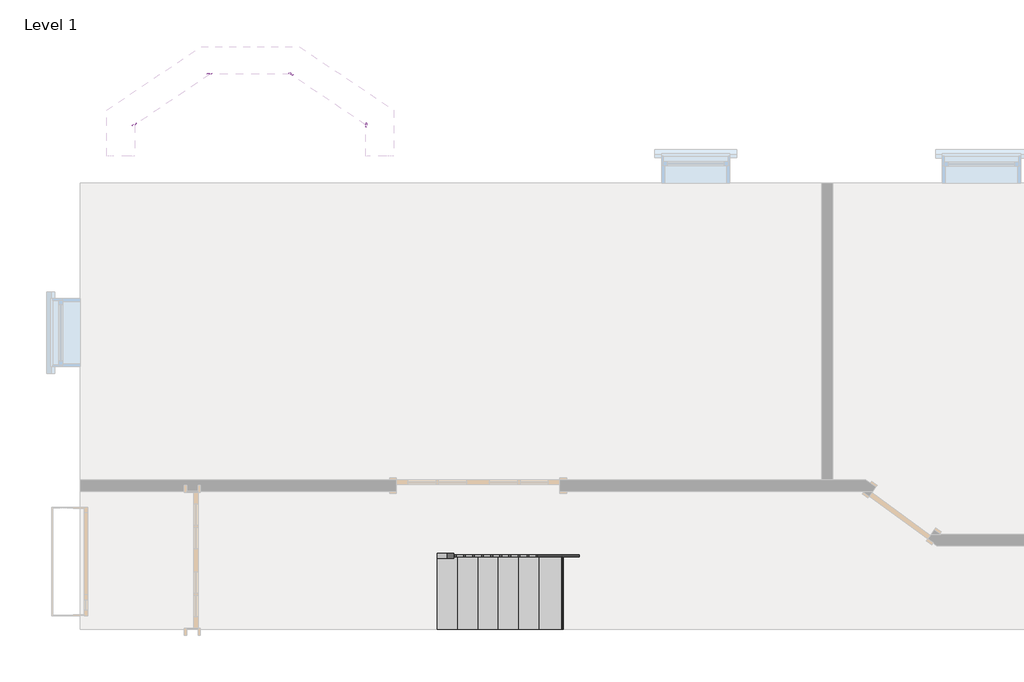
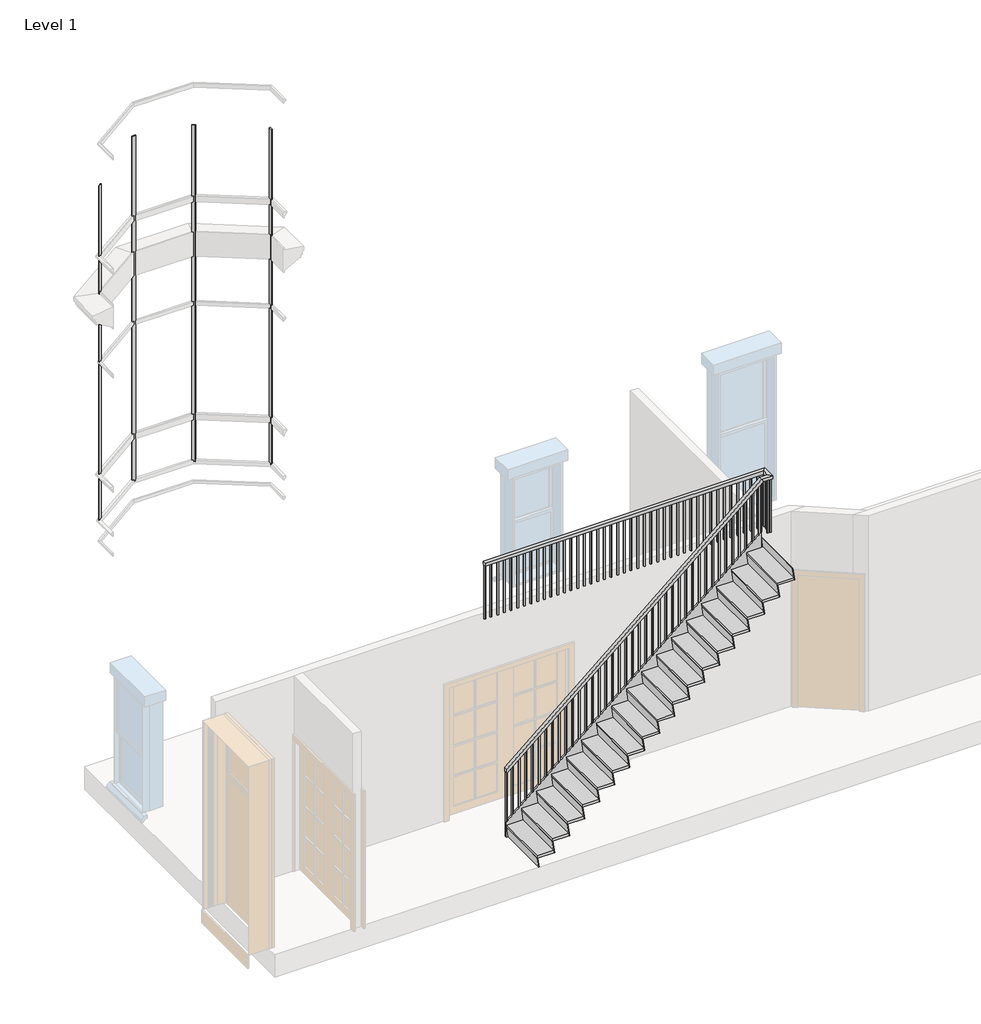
# One storey, part 2 of 2: 4 proxies, 1 member, 1 railing, 1 stair flight.
"""IFC4 building model written with IfcOpenShell, lengths in millimetres."""

from ifc_helpers import new_model, si_unit, frame, origin, place, context, project, spatial, polyline, outline, extrude, faceted_brep, transform, mapped, element, save
from components import stair_flight_76ddc24f

model = new_model("IFC4")

# Units and contexts
model_context = context("Model", 3, world=origin())
ifc_project = project(units=[si_unit("LENGTHUNIT", "METRE", prefix="MILLI")], contexts=[model_context])

# Site, building, storey
site = spatial("IfcSite", under=ifc_project)
building = spatial("IfcBuilding", under=site)
storey = spatial("IfcBuildingStorey", under=building, Name="Level 1", Elevation=0.0)

# Proxies
placement = place(None, origin())
element("IfcBuildingElementProxy", 1, Name="Bay Trim 2\"", ObjectType="Bay Trim 2\"", at=placement, inside=storey, context=model_context, shape_type="Brep", body=[
    faceted_brep([(-17626.4843053, 4420.7188759, 8764.0583333), (-17668.599414, 4449.1258754, 8764.0583333), (-17675.7011638, 4438.5970982, 8764.0583333), (-17633.5860552, 4410.1900987, 8764.0583333), (-17626.4843053, 4420.7188759, 3346.5435033), (-17633.5860552, 4410.1900987, 3346.5435033), (-17654.6436095, 4424.3935985, 3346.5435033), (-17675.7011638, 4438.5970982, 3346.5435033), (-17668.599414, 4449.1258754, 3346.5435033), (-17626.4843053, 4420.7188759, 7626.35), (-17626.4843053, 4420.7188759, 7566.025), (-17626.4843053, 4420.7188759, 7534.275), (-17626.4843053, 4420.7188759, 7048.5), (-17626.4843053, 4420.7188759, 7016.75), (-17626.4843053, 4420.7188759, 6681.7875), (-17626.4843053, 4420.7188759, 6656.3875), (-17626.4843053, 4420.7188759, 5925.0791667), (-17626.4843053, 4420.7188759, 5886.45), (-17626.4843053, 4420.7188759, 4114.8), (-17626.4843053, 4420.7188759, 4054.475), (-17626.4843053, 4420.7188759, 4022.725), (-17626.4843053, 4420.7188759, 3373.0018366), (-17668.599414, 4449.1258754, 3370.9964572), (-17668.599414, 4449.1258754, 4054.475), (-17668.599414, 4449.1258754, 4112.7946205), (-17668.599414, 4449.1258754, 5902.325), (-17668.599414, 4449.1258754, 5923.0737872), (-17668.599414, 4449.1258754, 6688.5883522), (-17668.599414, 4449.1258754, 7014.7446205), (-17668.599414, 4449.1258754, 7566.025), (-17668.599414, 4449.1258754, 7624.3446205), (-17675.7011638, 4438.5970982, 3372.7512534), (-17675.7011638, 4438.5970982, 4054.475), (-17675.7011638, 4438.5970982, 4114.5494167), (-17675.7011638, 4438.5970982, 5886.45), (-17675.7011638, 4438.5970982, 5924.8285834), (-17675.7011638, 4438.5970982, 6682.6373042), (-17675.7011638, 4438.5970982, 7016.4994167), (-17675.7011638, 4438.5970982, 7566.025), (-17675.7011638, 4438.5970982, 7626.0994167), (-17633.5860552, 4410.1900987, 3375.1185033), (-17633.5860552, 4410.1900987, 4022.725), (-17633.5860552, 4410.1900987, 4114.8), (-17633.5860552, 4410.1900987, 5867.4), (-17633.5860552, 4410.1900987, 5926.1375), (-17633.5860552, 4410.1900987, 6656.3875), (-17633.5860552, 4410.1900987, 7048.5), (-17633.5860552, 4410.1900987, 7534.275), (-17633.5860552, 4410.1900987, 7626.35)], [[[0, 1, 2, 3]], [[4, 5, 6, 7, 8]], [[1, 0, 9, 10, 11, 12, 13, 14, 15, 16, 17, 18, 19, 20, 21, 4, 8, 22, 23, 24, 25, 26, 27, 28, 29, 30]], [[2, 1, 30, 29, 28, 27, 26, 25, 24, 23, 22, 8, 7, 31, 32, 33, 34, 35, 36, 37, 38, 39]], [[3, 2, 39, 38, 37, 36, 35, 34, 33, 32, 31, 7, 6, 5, 40, 41, 42, 43, 44, 45, 46, 47, 48]], [[0, 3, 48, 47, 46, 45, 44, 43, 42, 41, 40, 5, 4, 21, 20, 19, 18, 17, 16, 15, 14, 13, 12, 11, 10, 9]]]),
])
element("IfcBuildingElementProxy", 2, Name="Bay Trim 2\"", ObjectType="Bay Trim 2\"", at=placement, inside=storey, context=model_context, shape_type="Brep", body=[
    faceted_brep([(-18537.4172586, 4437.0935985, 8911.1666667), (-18588.2172586, 4437.0935985, 8911.1666667), (-18588.2172586, 4424.3935985, 8911.1666667), (-18537.4172586, 4424.3935985, 8911.1666667), (-18537.4172586, 4437.0935985, 3346.5435033), (-18537.4172586, 4424.3935985, 3346.5435033), (-18562.8172586, 4424.3935985, 3346.5435033), (-18588.2172586, 4424.3935985, 3346.5435033), (-18588.2172586, 4437.0935985, 3346.5435033), (-18537.4172586, 4437.0935985, 7626.35), (-18537.4172586, 4437.0935985, 7566.025), (-18537.4172586, 4437.0935985, 7534.275), (-18537.4172586, 4437.0935985, 7048.5), (-18537.4172586, 4437.0935985, 7016.75), (-18537.4172586, 4437.0935985, 6681.7875), (-18537.4172586, 4437.0935985, 6656.3875), (-18537.4172586, 4437.0935985, 5925.0791667), (-18537.4172586, 4437.0935985, 5886.45), (-18537.4172586, 4437.0935985, 4114.8), (-18537.4172586, 4437.0935985, 4054.475), (-18537.4172586, 4437.0935985, 4022.725), (-18537.4172586, 4437.0935985, 3373.0018366), (-18588.2172586, 4437.0935985, 3370.9964572), (-18588.2172586, 4437.0935985, 4054.475), (-18588.2172586, 4437.0935985, 4112.7946205), (-18588.2172586, 4437.0935985, 5902.325), (-18588.2172586, 4437.0935985, 5923.0737872), (-18588.2172586, 4437.0935985, 6688.5883522), (-18588.2172586, 4437.0935985, 7014.7446205), (-18588.2172586, 4437.0935985, 7566.025), (-18588.2172586, 4437.0935985, 7624.3446205), (-18588.2172586, 4424.3935985, 3372.7512534), (-18588.2172586, 4424.3935985, 4054.475), (-18588.2172586, 4424.3935985, 4114.5494167), (-18588.2172586, 4424.3935985, 5886.45), (-18588.2172586, 4424.3935985, 5924.8285834), (-18588.2172586, 4424.3935985, 6682.6373042), (-18588.2172586, 4424.3935985, 7016.4994167), (-18588.2172586, 4424.3935985, 7566.025), (-18588.2172586, 4424.3935985, 7626.0994167), (-18537.4172586, 4424.3935985, 3375.1185033), (-18537.4172586, 4424.3935985, 4022.725), (-18537.4172586, 4424.3935985, 4114.8), (-18537.4172586, 4424.3935985, 5867.4), (-18537.4172586, 4424.3935985, 5926.1375), (-18537.4172586, 4424.3935985, 6656.3875), (-18537.4172586, 4424.3935985, 7048.5), (-18537.4172586, 4424.3935985, 7534.275), (-18537.4172586, 4424.3935985, 7626.35)], [[[0, 1, 2, 3]], [[4, 5, 6, 7, 8]], [[1, 0, 9, 10, 11, 12, 13, 14, 15, 16, 17, 18, 19, 20, 21, 4, 8, 22, 23, 24, 25, 26, 27, 28, 29, 30]], [[2, 1, 30, 29, 28, 27, 26, 25, 24, 23, 22, 8, 7, 31, 32, 33, 34, 35, 36, 37, 38, 39]], [[3, 2, 39, 38, 37, 36, 35, 34, 33, 32, 31, 7, 6, 5, 40, 41, 42, 43, 44, 45, 46, 47, 48]], [[0, 3, 48, 47, 46, 45, 44, 43, 42, 41, 40, 5, 4, 21, 20, 19, 18, 17, 16, 15, 14, 13, 12, 11, 10, 9]]]),
])
element("IfcBuildingElementProxy", 3, Name="Bay Trim 2\"", ObjectType="Bay Trim 2\"", at=placement, inside=storey, context=model_context, shape_type="Brep", body=[
    faceted_brep([(-19390.1746296, 3881.6529732, 8764.0583333), (-19432.2897383, 3853.2459737, 8764.0583333), (-19425.1879884, 3842.7171966, 8764.0583333), (-19383.0728797, 3871.1241961, 8764.0583333), (-19390.1746296, 3881.6529732, 3375.1185033), (-19383.0728797, 3871.1241961, 3375.1185033), (-19425.1879884, 3842.7171966, 3375.1185033), (-19432.2897383, 3853.2459737, 3375.1185033), (-19390.1746296, 3881.6529732, 7626.35), (-19390.1746296, 3881.6529732, 7566.025), (-19390.1746296, 3881.6529732, 7534.275), (-19390.1746296, 3881.6529732, 7048.5), (-19390.1746296, 3881.6529732, 7016.75), (-19390.1746296, 3881.6529732, 6681.7875), (-19390.1746296, 3881.6529732, 6656.3875), (-19390.1746296, 3881.6529732, 5925.0791667), (-19390.1746296, 3881.6529732, 5886.45), (-19390.1746296, 3881.6529732, 4114.8), (-19390.1746296, 3881.6529732, 4054.475), (-19390.1746296, 3881.6529732, 4022.725), (-19432.2897383, 3853.2459737, 4070.35), (-19432.2897383, 3853.2459737, 4112.2234493), (-19432.2897383, 3853.2459737, 5902.325), (-19432.2897383, 3853.2459737, 5922.502616), (-19432.2897383, 3853.2459737, 6690.5253676), (-19432.2897383, 3853.2459737, 7014.1734493), (-19432.2897383, 3853.2459737, 7581.9), (-19432.2897383, 3853.2459737, 7623.7734493), (-19425.1879884, 3842.7171966, 4054.475), (-19425.1879884, 3842.7171966, 4113.4070743), (-19425.1879884, 3842.7171966, 5902.325), (-19425.1879884, 3842.7171966, 5923.6862409), (-19425.1879884, 3842.7171966, 6686.5113351), (-19425.1879884, 3842.7171966, 7015.3570743), (-19425.1879884, 3842.7171966, 7566.025), (-19425.1879884, 3842.7171966, 7624.9570743), (-19383.0728797, 3871.1241961, 4022.725), (-19383.0728797, 3871.1241961, 4114.8), (-19383.0728797, 3871.1241961, 5867.4), (-19383.0728797, 3871.1241961, 5926.1375), (-19383.0728797, 3871.1241961, 6656.3875), (-19383.0728797, 3871.1241961, 7048.5), (-19383.0728797, 3871.1241961, 7534.275), (-19383.0728797, 3871.1241961, 7626.35)], [[[0, 1, 2, 3]], [[4, 5, 6, 7]], [[1, 0, 8, 9, 10, 11, 12, 13, 14, 15, 16, 17, 18, 19, 4, 7, 20, 21, 22, 23, 24, 25, 26, 27]], [[2, 1, 27, 26, 25, 24, 23, 22, 21, 20, 7, 6, 28, 29, 30, 31, 32, 33, 34, 35]], [[3, 2, 35, 34, 33, 32, 31, 30, 29, 28, 6, 5, 36, 37, 38, 39, 40, 41, 42, 43]], [[0, 3, 43, 42, 41, 40, 39, 38, 37, 36, 5, 4, 19, 18, 17, 16, 15, 14, 13, 12, 11, 10, 9, 8]]]),
])
element("IfcBuildingElementProxy", 4, Name="Bay Trim 2\"", ObjectType="Bay Trim 2\"", at=placement, inside=storey, context=model_context, shape_type="Brep", body=[
    faceted_brep([(-16800.630434, 3831.5206963, 8763.0), (-16800.630434, 3882.3206963, 8763.0), (-16813.330434, 3882.3206963, 8763.0), (-16813.330434, 3831.5206963, 8763.0), (-16800.630434, 3831.5206963, 3346.5435033), (-16813.330434, 3831.5206963, 3346.5435033), (-16813.330434, 3856.9206963, 3346.5435033), (-16813.330434, 3882.3206963, 3346.5435033), (-16805.5648747, 3882.3206963, 3346.5435033), (-16800.630434, 3882.3206963, 3346.5435033), (-16800.630434, 3878.992374, 3346.5435033), (-16800.630434, 3831.5206963, 7626.35), (-16800.630434, 3831.5206963, 7566.025), (-16800.630434, 3831.5206963, 7534.275), (-16800.630434, 3831.5206963, 7048.5), (-16800.630434, 3831.5206963, 7016.75), (-16800.630434, 3831.5206963, 6681.7875), (-16800.630434, 3831.5206963, 6656.3875), (-16800.630434, 3831.5206963, 5925.0791667), (-16800.630434, 3831.5206963, 5886.45), (-16800.630434, 3831.5206963, 4114.8), (-16800.630434, 3831.5206963, 4054.475), (-16800.630434, 3831.5206963, 4022.725), (-16800.630434, 3831.5206963, 3373.0018366), (-16800.630434, 3882.3206963, 3370.4252859), (-16800.630434, 3882.3206963, 4070.35), (-16800.630434, 3882.3206963, 4112.2234493), (-16800.630434, 3882.3206963, 5902.325), (-16800.630434, 3882.3206963, 5922.502616), (-16800.630434, 3882.3206963, 6690.5253676), (-16800.630434, 3882.3206963, 7014.1734493), (-16800.630434, 3882.3206963, 7581.9), (-16800.630434, 3882.3206963, 7623.7734493), (-16813.330434, 3882.3206963, 3371.6089109), (-16813.330434, 3882.3206963, 4054.475), (-16813.330434, 3882.3206963, 4113.4070743), (-16813.330434, 3882.3206963, 5902.325), (-16813.330434, 3882.3206963, 5923.6862409), (-16813.330434, 3882.3206963, 6686.5113351), (-16813.330434, 3882.3206963, 7015.3570743), (-16813.330434, 3882.3206963, 7566.025), (-16813.330434, 3882.3206963, 7624.9570743), (-16813.330434, 3831.5206963, 3375.1185033), (-16813.330434, 3831.5206963, 4022.725), (-16813.330434, 3831.5206963, 4114.8), (-16813.330434, 3831.5206963, 5867.4), (-16813.330434, 3831.5206963, 5926.1375), (-16813.330434, 3831.5206963, 6656.3875), (-16813.330434, 3831.5206963, 7048.5), (-16813.330434, 3831.5206963, 7534.275), (-16813.330434, 3831.5206963, 7626.35)], [[[0, 1, 2, 3]], [[4, 5, 6, 7, 8, 9, 10]], [[1, 0, 11, 12, 13, 14, 15, 16, 17, 18, 19, 20, 21, 22, 23, 4, 10, 9, 24, 25, 26, 27, 28, 29, 30, 31, 32]], [[2, 1, 32, 31, 30, 29, 28, 27, 26, 25, 24, 9, 8, 7, 33, 34, 35, 36, 37, 38, 39, 40, 41]], [[3, 2, 41, 40, 39, 38, 37, 36, 35, 34, 33, 7, 6, 5, 42, 43, 44, 45, 46, 47, 48, 49, 50]], [[0, 3, 50, 49, 48, 47, 46, 45, 44, 43, 42, 5, 4, 23, 22, 21, 20, 19, 18, 17, 16, 15, 14, 13, 12, 11]]]),
])

# Member
element("IfcMember", 5, ObjectType="Stringer - 1\" Width", at=placement, inside=storey, context=model_context, shape_type="SweptSolid", body=[
    extrude(outline(polyline([(244.0282445, -16013.2535292), (0.0, -16013.2535292), (0.0, -15829.6894453), (3154.0972619, -12127.0535292), (3554.4949112, -12127.0535292), (244.0282445, -16013.2535292)])), frame((0.0, -985.8064015, 0.0), z_axis=(0.0, 1.0, 0.0), x_axis=(0.0, 0.0, 1.0)), (0.0, 0.0, 1.0), 25.4),
])

# Railing
element("IfcRailing", 6, ObjectType="Handrail - Rectangular", at=placement, inside=storey, context=model_context, shape_type="SolidModel", body=[
    faceted_brep([(-16013.2535292, -947.7064015, 1109.1333333), (-16013.2535292, -947.7064015, 1042.4003918), (-16013.2535292, -998.5064015, 1042.4003918), (-16013.2535292, -998.5064015, 1109.1333333), (-12127.0535292, -947.7064015, 4419.6), (-12108.3496413, -947.7064015, 4368.8), (-12108.3496413, -998.5064015, 4368.8), (-12127.0535292, -998.5064015, 4419.6), (-12012.7535292, -947.7064015, 4419.6), (-12012.7535292, -947.7064015, 4368.8), (-11961.9535292, -998.5064015, 4368.8), (-11961.9535292, -998.5064015, 4419.6), (-12012.7535292, -846.1064015, 4419.6), (-12012.7535292, -846.1064015, 4368.8), (-11961.9535292, -795.3064015, 4368.8), (-11961.9535292, -795.3064015, 4419.6), (-16254.5535292, -846.1064015, 4419.6), (-16254.5535292, -795.3064015, 4419.6), (-16254.5535292, -795.3064015, 4368.8), (-16254.5535292, -846.1064015, 4368.8)], [[[0, 1, 2, 3]], [[1, 0, 4, 5]], [[2, 1, 5, 6]], [[3, 2, 6, 7]], [[0, 3, 7, 4]], [[5, 4, 8, 9]], [[6, 5, 9, 10]], [[7, 6, 10, 11]], [[4, 7, 11, 8]], [[9, 8, 12, 13]], [[10, 9, 13, 14]], [[11, 10, 14, 15]], [[8, 11, 15, 12]], [[16, 17, 18, 19]], [[13, 12, 16, 19]], [[14, 13, 19, 18]], [[15, 14, 18, 17]], [[12, 15, 17, 16]]]),
    extrude(outline(polyline([(-16143.4285292, -830.2314015), (-16162.4785292, -830.2314015), (-16162.4785292, -811.1814015), (-16143.4285292, -811.1814015), (-16143.4285292, -830.2314015)])), frame((0.0, 0.0, 3505.2), z_axis=(0.0, 0.0, 1.0), x_axis=(1.0, 0.0, 0.0)), (0.0, 0.0, 1.0), 863.6),
    extrude(outline(polyline([(-16041.8285292, -830.2314015), (-16060.8785292, -830.2314015), (-16060.8785292, -811.1814015), (-16041.8285292, -811.1814015), (-16041.8285292, -830.2314015)])), frame((0.0, 0.0, 3505.2), z_axis=(0.0, 0.0, 1.0), x_axis=(1.0, 0.0, 0.0)), (0.0, 0.0, 1.0), 863.6),
    extrude(outline(polyline([(-15940.2285292, -830.2314015), (-15959.2785292, -830.2314015), (-15959.2785292, -811.1814015), (-15940.2285292, -811.1814015), (-15940.2285292, -830.2314015)])), frame((0.0, 0.0, 3505.2), z_axis=(0.0, 0.0, 1.0), x_axis=(1.0, 0.0, 0.0)), (0.0, 0.0, 1.0), 863.6),
    extrude(outline(polyline([(-15838.6285292, -830.2314015), (-15857.6785292, -830.2314015), (-15857.6785292, -811.1814015), (-15838.6285292, -811.1814015), (-15838.6285292, -830.2314015)])), frame((0.0, 0.0, 3505.2), z_axis=(0.0, 0.0, 1.0), x_axis=(1.0, 0.0, 0.0)), (0.0, 0.0, 1.0), 863.6),
    extrude(outline(polyline([(-15737.0285292, -830.2314015), (-15756.0785292, -830.2314015), (-15756.0785292, -811.1814015), (-15737.0285292, -811.1814015), (-15737.0285292, -830.2314015)])), frame((0.0, 0.0, 3505.2), z_axis=(0.0, 0.0, 1.0), x_axis=(1.0, 0.0, 0.0)), (0.0, 0.0, 1.0), 863.6),
    extrude(outline(polyline([(-15635.4285292, -830.2314015), (-15654.4785292, -830.2314015), (-15654.4785292, -811.1814015), (-15635.4285292, -811.1814015), (-15635.4285292, -830.2314015)])), frame((0.0, 0.0, 3505.2), z_axis=(0.0, 0.0, 1.0), x_axis=(1.0, 0.0, 0.0)), (0.0, 0.0, 1.0), 863.6),
    extrude(outline(polyline([(-15533.8285292, -830.2314015), (-15552.8785292, -830.2314015), (-15552.8785292, -811.1814015), (-15533.8285292, -811.1814015), (-15533.8285292, -830.2314015)])), frame((0.0, 0.0, 3505.2), z_axis=(0.0, 0.0, 1.0), x_axis=(1.0, 0.0, 0.0)), (0.0, 0.0, 1.0), 863.6),
    extrude(outline(polyline([(-15432.2285292, -830.2314015), (-15451.2785292, -830.2314015), (-15451.2785292, -811.1814015), (-15432.2285292, -811.1814015), (-15432.2285292, -830.2314015)])), frame((0.0, 0.0, 3505.2), z_axis=(0.0, 0.0, 1.0), x_axis=(1.0, 0.0, 0.0)), (0.0, 0.0, 1.0), 863.6),
    extrude(outline(polyline([(-15330.6285292, -830.2314015), (-15349.6785292, -830.2314015), (-15349.6785292, -811.1814015), (-15330.6285292, -811.1814015), (-15330.6285292, -830.2314015)])), frame((0.0, 0.0, 3505.2), z_axis=(0.0, 0.0, 1.0), x_axis=(1.0, 0.0, 0.0)), (0.0, 0.0, 1.0), 863.6),
    extrude(outline(polyline([(-15229.0285292, -830.2314015), (-15248.0785292, -830.2314015), (-15248.0785292, -811.1814015), (-15229.0285292, -811.1814015), (-15229.0285292, -830.2314015)])), frame((0.0, 0.0, 3505.2), z_axis=(0.0, 0.0, 1.0), x_axis=(1.0, 0.0, 0.0)), (0.0, 0.0, 1.0), 863.6),
    extrude(outline(polyline([(-15127.4285292, -830.2314015), (-15146.4785292, -830.2314015), (-15146.4785292, -811.1814015), (-15127.4285292, -811.1814015), (-15127.4285292, -830.2314015)])), frame((0.0, 0.0, 3505.2), z_axis=(0.0, 0.0, 1.0), x_axis=(1.0, 0.0, 0.0)), (0.0, 0.0, 1.0), 863.6),
    extrude(outline(polyline([(-15025.8285292, -830.2314015), (-15044.8785292, -830.2314015), (-15044.8785292, -811.1814015), (-15025.8285292, -811.1814015), (-15025.8285292, -830.2314015)])), frame((0.0, 0.0, 3505.2), z_axis=(0.0, 0.0, 1.0), x_axis=(1.0, 0.0, 0.0)), (0.0, 0.0, 1.0), 863.6),
    extrude(outline(polyline([(-14924.2285292, -830.2314015), (-14943.2785292, -830.2314015), (-14943.2785292, -811.1814015), (-14924.2285292, -811.1814015), (-14924.2285292, -830.2314015)])), frame((0.0, 0.0, 3505.2), z_axis=(0.0, 0.0, 1.0), x_axis=(1.0, 0.0, 0.0)), (0.0, 0.0, 1.0), 863.6),
    extrude(outline(polyline([(-14822.6285292, -830.2314015), (-14841.6785292, -830.2314015), (-14841.6785292, -811.1814015), (-14822.6285292, -811.1814015), (-14822.6285292, -830.2314015)])), frame((0.0, 0.0, 3505.2), z_axis=(0.0, 0.0, 1.0), x_axis=(1.0, 0.0, 0.0)), (0.0, 0.0, 1.0), 863.6),
    extrude(outline(polyline([(-14721.0285292, -830.2314015), (-14740.0785292, -830.2314015), (-14740.0785292, -811.1814015), (-14721.0285292, -811.1814015), (-14721.0285292, -830.2314015)])), frame((0.0, 0.0, 3505.2), z_axis=(0.0, 0.0, 1.0), x_axis=(1.0, 0.0, 0.0)), (0.0, 0.0, 1.0), 863.6),
    extrude(outline(polyline([(-14619.4285292, -830.2314015), (-14638.4785292, -830.2314015), (-14638.4785292, -811.1814015), (-14619.4285292, -811.1814015), (-14619.4285292, -830.2314015)])), frame((0.0, 0.0, 3505.2), z_axis=(0.0, 0.0, 1.0), x_axis=(1.0, 0.0, 0.0)), (0.0, 0.0, 1.0), 863.6),
    extrude(outline(polyline([(-14517.8285292, -830.2314015), (-14536.8785292, -830.2314015), (-14536.8785292, -811.1814015), (-14517.8285292, -811.1814015), (-14517.8285292, -830.2314015)])), frame((0.0, 0.0, 3505.2), z_axis=(0.0, 0.0, 1.0), x_axis=(1.0, 0.0, 0.0)), (0.0, 0.0, 1.0), 863.6),
    extrude(outline(polyline([(-14416.2285292, -830.2314015), (-14435.2785292, -830.2314015), (-14435.2785292, -811.1814015), (-14416.2285292, -811.1814015), (-14416.2285292, -830.2314015)])), frame((0.0, 0.0, 3505.2), z_axis=(0.0, 0.0, 1.0), x_axis=(1.0, 0.0, 0.0)), (0.0, 0.0, 1.0), 863.6),
    extrude(outline(polyline([(-14314.6285292, -830.2314015), (-14333.6785292, -830.2314015), (-14333.6785292, -811.1814015), (-14314.6285292, -811.1814015), (-14314.6285292, -830.2314015)])), frame((0.0, 0.0, 3505.2), z_axis=(0.0, 0.0, 1.0), x_axis=(1.0, 0.0, 0.0)), (0.0, 0.0, 1.0), 863.6),
    extrude(outline(polyline([(-14213.0285292, -830.2314015), (-14232.0785292, -830.2314015), (-14232.0785292, -811.1814015), (-14213.0285292, -811.1814015), (-14213.0285292, -830.2314015)])), frame((0.0, 0.0, 3505.2), z_axis=(0.0, 0.0, 1.0), x_axis=(1.0, 0.0, 0.0)), (0.0, 0.0, 1.0), 863.6),
    extrude(outline(polyline([(-14111.4285292, -830.2314015), (-14130.4785292, -830.2314015), (-14130.4785292, -811.1814015), (-14111.4285292, -811.1814015), (-14111.4285292, -830.2314015)])), frame((0.0, 0.0, 3505.2), z_axis=(0.0, 0.0, 1.0), x_axis=(1.0, 0.0, 0.0)), (0.0, 0.0, 1.0), 863.6),
    extrude(outline(polyline([(-14009.8285292, -830.2314015), (-14028.8785292, -830.2314015), (-14028.8785292, -811.1814015), (-14009.8285292, -811.1814015), (-14009.8285292, -830.2314015)])), frame((0.0, 0.0, 3505.2), z_axis=(0.0, 0.0, 1.0), x_axis=(1.0, 0.0, 0.0)), (0.0, 0.0, 1.0), 863.6),
    extrude(outline(polyline([(-13908.2285292, -830.2314015), (-13927.2785292, -830.2314015), (-13927.2785292, -811.1814015), (-13908.2285292, -811.1814015), (-13908.2285292, -830.2314015)])), frame((0.0, 0.0, 3505.2), z_axis=(0.0, 0.0, 1.0), x_axis=(1.0, 0.0, 0.0)), (0.0, 0.0, 1.0), 863.6),
    extrude(outline(polyline([(-13806.6285292, -830.2314015), (-13825.6785292, -830.2314015), (-13825.6785292, -811.1814015), (-13806.6285292, -811.1814015), (-13806.6285292, -830.2314015)])), frame((0.0, 0.0, 3505.2), z_axis=(0.0, 0.0, 1.0), x_axis=(1.0, 0.0, 0.0)), (0.0, 0.0, 1.0), 863.6),
    extrude(outline(polyline([(-13705.0285292, -830.2314015), (-13724.0785292, -830.2314015), (-13724.0785292, -811.1814015), (-13705.0285292, -811.1814015), (-13705.0285292, -830.2314015)])), frame((0.0, 0.0, 3505.2), z_axis=(0.0, 0.0, 1.0), x_axis=(1.0, 0.0, 0.0)), (0.0, 0.0, 1.0), 863.6),
    extrude(outline(polyline([(-13603.4285292, -830.2314015), (-13622.4785292, -830.2314015), (-13622.4785292, -811.1814015), (-13603.4285292, -811.1814015), (-13603.4285292, -830.2314015)])), frame((0.0, 0.0, 3505.2), z_axis=(0.0, 0.0, 1.0), x_axis=(1.0, 0.0, 0.0)), (0.0, 0.0, 1.0), 863.6),
    extrude(outline(polyline([(-13501.8285292, -830.2314015), (-13520.8785292, -830.2314015), (-13520.8785292, -811.1814015), (-13501.8285292, -811.1814015), (-13501.8285292, -830.2314015)])), frame((0.0, 0.0, 3505.2), z_axis=(0.0, 0.0, 1.0), x_axis=(1.0, 0.0, 0.0)), (0.0, 0.0, 1.0), 863.6),
    extrude(outline(polyline([(-13400.2285292, -830.2314015), (-13419.2785292, -830.2314015), (-13419.2785292, -811.1814015), (-13400.2285292, -811.1814015), (-13400.2285292, -830.2314015)])), frame((0.0, 0.0, 3505.2), z_axis=(0.0, 0.0, 1.0), x_axis=(1.0, 0.0, 0.0)), (0.0, 0.0, 1.0), 863.6),
    extrude(outline(polyline([(-13298.6285292, -830.2314015), (-13317.6785292, -830.2314015), (-13317.6785292, -811.1814015), (-13298.6285292, -811.1814015), (-13298.6285292, -830.2314015)])), frame((0.0, 0.0, 3505.2), z_axis=(0.0, 0.0, 1.0), x_axis=(1.0, 0.0, 0.0)), (0.0, 0.0, 1.0), 863.6),
    extrude(outline(polyline([(-13197.0285292, -830.2314015), (-13216.0785292, -830.2314015), (-13216.0785292, -811.1814015), (-13197.0285292, -811.1814015), (-13197.0285292, -830.2314015)])), frame((0.0, 0.0, 3505.2), z_axis=(0.0, 0.0, 1.0), x_axis=(1.0, 0.0, 0.0)), (0.0, 0.0, 1.0), 863.6),
    extrude(outline(polyline([(-13095.4285292, -830.2314015), (-13114.4785292, -830.2314015), (-13114.4785292, -811.1814015), (-13095.4285292, -811.1814015), (-13095.4285292, -830.2314015)])), frame((0.0, 0.0, 3505.2), z_axis=(0.0, 0.0, 1.0), x_axis=(1.0, 0.0, 0.0)), (0.0, 0.0, 1.0), 863.6),
    extrude(outline(polyline([(-12993.8285292, -830.2314015), (-13012.8785292, -830.2314015), (-13012.8785292, -811.1814015), (-12993.8285292, -811.1814015), (-12993.8285292, -830.2314015)])), frame((0.0, 0.0, 3505.2), z_axis=(0.0, 0.0, 1.0), x_axis=(1.0, 0.0, 0.0)), (0.0, 0.0, 1.0), 863.6),
    extrude(outline(polyline([(-12892.2285292, -830.2314015), (-12911.2785292, -830.2314015), (-12911.2785292, -811.1814015), (-12892.2285292, -811.1814015), (-12892.2285292, -830.2314015)])), frame((0.0, 0.0, 3505.2), z_axis=(0.0, 0.0, 1.0), x_axis=(1.0, 0.0, 0.0)), (0.0, 0.0, 1.0), 863.6),
    extrude(outline(polyline([(-12790.6285292, -830.2314015), (-12809.6785292, -830.2314015), (-12809.6785292, -811.1814015), (-12790.6285292, -811.1814015), (-12790.6285292, -830.2314015)])), frame((0.0, 0.0, 3505.2), z_axis=(0.0, 0.0, 1.0), x_axis=(1.0, 0.0, 0.0)), (0.0, 0.0, 1.0), 863.6),
    extrude(outline(polyline([(-12689.0285292, -830.2314015), (-12708.0785292, -830.2314015), (-12708.0785292, -811.1814015), (-12689.0285292, -811.1814015), (-12689.0285292, -830.2314015)])), frame((0.0, 0.0, 3505.2), z_axis=(0.0, 0.0, 1.0), x_axis=(1.0, 0.0, 0.0)), (0.0, 0.0, 1.0), 863.6),
    extrude(outline(polyline([(-12587.4285292, -830.2314015), (-12606.4785292, -830.2314015), (-12606.4785292, -811.1814015), (-12587.4285292, -811.1814015), (-12587.4285292, -830.2314015)])), frame((0.0, 0.0, 3505.2), z_axis=(0.0, 0.0, 1.0), x_axis=(1.0, 0.0, 0.0)), (0.0, 0.0, 1.0), 863.6),
    extrude(outline(polyline([(-12485.8285292, -830.2314015), (-12504.8785292, -830.2314015), (-12504.8785292, -811.1814015), (-12485.8285292, -811.1814015), (-12485.8285292, -830.2314015)])), frame((0.0, 0.0, 3505.2), z_axis=(0.0, 0.0, 1.0), x_axis=(1.0, 0.0, 0.0)), (0.0, 0.0, 1.0), 863.6),
    extrude(outline(polyline([(-12384.2285292, -830.2314015), (-12403.2785292, -830.2314015), (-12403.2785292, -811.1814015), (-12384.2285292, -811.1814015), (-12384.2285292, -830.2314015)])), frame((0.0, 0.0, 3505.2), z_axis=(0.0, 0.0, 1.0), x_axis=(1.0, 0.0, 0.0)), (0.0, 0.0, 1.0), 863.6),
    extrude(outline(polyline([(-12282.6285292, -830.2314015), (-12301.6785292, -830.2314015), (-12301.6785292, -811.1814015), (-12282.6285292, -811.1814015), (-12282.6285292, -830.2314015)])), frame((0.0, 0.0, 3505.2), z_axis=(0.0, 0.0, 1.0), x_axis=(1.0, 0.0, 0.0)), (0.0, 0.0, 1.0), 863.6),
    extrude(outline(polyline([(-12181.0285292, -830.2314015), (-12200.0785292, -830.2314015), (-12200.0785292, -811.1814015), (-12181.0285292, -811.1814015), (-12181.0285292, -830.2314015)])), frame((0.0, 0.0, 3505.2), z_axis=(0.0, 0.0, 1.0), x_axis=(1.0, 0.0, 0.0)), (0.0, 0.0, 1.0), 863.6),
    extrude(outline(polyline([(-12079.4285292, -830.2314015), (-12098.4785292, -830.2314015), (-12098.4785292, -811.1814015), (-12079.4285292, -811.1814015), (-12079.4285292, -830.2314015)])), frame((0.0, 0.0, 3505.2), z_axis=(0.0, 0.0, 1.0), x_axis=(1.0, 0.0, 0.0)), (0.0, 0.0, 1.0), 863.6),
    extrude(outline(polyline([(-11996.8785292, -881.0314015), (-11996.8785292, -861.9814015), (-11977.8285292, -861.9814015), (-11977.8285292, -881.0314015), (-11996.8785292, -881.0314015)])), frame((0.0, 0.0, 3505.2), z_axis=(0.0, 0.0, 1.0), x_axis=(1.0, 0.0, 0.0)), (0.0, 0.0, 1.0), 863.6),
    extrude(outline(polyline([(-12034.9785292, -963.5814015), (-12015.9285292, -963.5814015), (-12015.9285292, -982.6314015), (-12034.9785292, -982.6314015), (-12034.9785292, -963.5814015)])), frame((0.0, 0.0, 3505.2), z_axis=(0.0, 0.0, 1.0), x_axis=(1.0, 0.0, 0.0)), (0.0, 0.0, 1.0), 863.6),
    extrude(outline(polyline([(4323.1161325, -12161.9785292), (3524.7439852, -12161.9785292), (3540.971763, -12142.9285292), (4339.3439103, -12142.9285292), (4323.1161325, -12161.9785292)])), frame((0.0, -982.6314015, 0.0), z_axis=(0.0, 1.0, 0.0), x_axis=(0.0, 0.0, 1.0)), (0.0, 0.0, 1.0), 19.05),
    extrude(outline(polyline([(4236.5679844, -12263.5785292), (3438.1958371, -12263.5785292), (3454.4236149, -12244.5285292), (4252.7957622, -12244.5285292), (4236.5679844, -12263.5785292)])), frame((0.0, -982.6314015, 0.0), z_axis=(0.0, 1.0, 0.0), x_axis=(0.0, 0.0, 1.0)), (0.0, 0.0, 1.0), 19.05),
    extrude(outline(polyline([(4150.0198362, -12365.1785292), (3351.6476889, -12365.1785292), (3367.8754667, -12346.1285292), (4166.247614, -12346.1285292), (4150.0198362, -12365.1785292)])), frame((0.0, -982.6314015, 0.0), z_axis=(0.0, 1.0, 0.0), x_axis=(0.0, 0.0, 1.0)), (0.0, 0.0, 1.0), 19.05),
    extrude(outline(polyline([(4063.4716881, -12466.7785292), (3265.0995408, -12466.7785292), (3281.3273186, -12447.7285292), (4079.6994659, -12447.7285292), (4063.4716881, -12466.7785292)])), frame((0.0, -982.6314015, 0.0), z_axis=(0.0, 1.0, 0.0), x_axis=(0.0, 0.0, 1.0)), (0.0, 0.0, 1.0), 19.05),
    extrude(outline(polyline([(3976.9235399, -12568.3785292), (3178.5513926, -12568.3785292), (3194.7791704, -12549.3285292), (3993.1513177, -12549.3285292), (3976.9235399, -12568.3785292)])), frame((0.0, -982.6314015, 0.0), z_axis=(0.0, 1.0, 0.0), x_axis=(0.0, 0.0, 1.0)), (0.0, 0.0, 1.0), 19.05),
    extrude(outline(polyline([(3890.3753918, -12669.9785292), (3092.0032445, -12669.9785292), (3108.2310223, -12650.9285292), (3906.6031696, -12650.9285292), (3890.3753918, -12669.9785292)])), frame((0.0, -982.6314015, 0.0), z_axis=(0.0, 1.0, 0.0), x_axis=(0.0, 0.0, 1.0)), (0.0, 0.0, 1.0), 19.05),
    extrude(outline(polyline([(3803.8272436, -12771.5785292), (3005.4550963, -12771.5785292), (3021.6828741, -12752.5285292), (3820.0550214, -12752.5285292), (3803.8272436, -12771.5785292)])), frame((0.0, -982.6314015, 0.0), z_axis=(0.0, 1.0, 0.0), x_axis=(0.0, 0.0, 1.0)), (0.0, 0.0, 1.0), 19.05),
    extrude(outline(polyline([(3717.2790955, -12873.1785292), (2918.9069482, -12873.1785292), (2935.134726, -12854.1285292), (3733.5068733, -12854.1285292), (3717.2790955, -12873.1785292)])), frame((0.0, -982.6314015, 0.0), z_axis=(0.0, 1.0, 0.0), x_axis=(0.0, 0.0, 1.0)), (0.0, 0.0, 1.0), 19.05),
    extrude(outline(polyline([(3630.7309473, -12974.7785292), (2832.3588001, -12974.7785292), (2848.5865778, -12955.7285292), (3646.9587251, -12955.7285292), (3630.7309473, -12974.7785292)])), frame((0.0, -982.6314015, 0.0), z_axis=(0.0, 1.0, 0.0), x_axis=(0.0, 0.0, 1.0)), (0.0, 0.0, 1.0), 19.05),
    extrude(outline(polyline([(3544.1827992, -13076.3785292), (2745.8106519, -13076.3785292), (2762.0384297, -13057.3285292), (3560.410577, -13057.3285292), (3544.1827992, -13076.3785292)])), frame((0.0, -982.6314015, 0.0), z_axis=(0.0, 1.0, 0.0), x_axis=(0.0, 0.0, 1.0)), (0.0, 0.0, 1.0), 19.05),
    extrude(outline(polyline([(3457.634651, -13177.9785292), (2659.2625038, -13177.9785292), (2675.4902815, -13158.9285292), (3473.8624288, -13158.9285292), (3457.634651, -13177.9785292)])), frame((0.0, -982.6314015, 0.0), z_axis=(0.0, 1.0, 0.0), x_axis=(0.0, 0.0, 1.0)), (0.0, 0.0, 1.0), 19.05),
    extrude(outline(polyline([(3371.0865029, -13279.5785292), (2572.7143556, -13279.5785292), (2588.9421334, -13260.5285292), (3387.3142807, -13260.5285292), (3371.0865029, -13279.5785292)])), frame((0.0, -982.6314015, 0.0), z_axis=(0.0, 1.0, 0.0), x_axis=(0.0, 0.0, 1.0)), (0.0, 0.0, 1.0), 19.05),
    extrude(outline(polyline([(3284.5383548, -13381.1785292), (2486.1662075, -13381.1785292), (2502.3939852, -13362.1285292), (3300.7661325, -13362.1285292), (3284.5383548, -13381.1785292)])), frame((0.0, -982.6314015, 0.0), z_axis=(0.0, 1.0, 0.0), x_axis=(0.0, 0.0, 1.0)), (0.0, 0.0, 1.0), 19.05),
    extrude(outline(polyline([(3197.9902066, -13482.7785292), (2399.6180593, -13482.7785292), (2415.8458371, -13463.7285292), (3214.2179844, -13463.7285292), (3197.9902066, -13482.7785292)])), frame((0.0, -982.6314015, 0.0), z_axis=(0.0, 1.0, 0.0), x_axis=(0.0, 0.0, 1.0)), (0.0, 0.0, 1.0), 19.05),
    extrude(outline(polyline([(3111.4420585, -13584.3785292), (2313.0699112, -13584.3785292), (2329.2976889, -13565.3285292), (3127.6698362, -13565.3285292), (3111.4420585, -13584.3785292)])), frame((0.0, -982.6314015, 0.0), z_axis=(0.0, 1.0, 0.0), x_axis=(0.0, 0.0, 1.0)), (0.0, 0.0, 1.0), 19.05),
    extrude(outline(polyline([(3024.8939103, -13685.9785292), (2226.521763, -13685.9785292), (2242.7495408, -13666.9285292), (3041.1216881, -13666.9285292), (3024.8939103, -13685.9785292)])), frame((0.0, -982.6314015, 0.0), z_axis=(0.0, 1.0, 0.0), x_axis=(0.0, 0.0, 1.0)), (0.0, 0.0, 1.0), 19.05),
    extrude(outline(polyline([(2938.3457622, -13787.5785292), (2139.9736149, -13787.5785292), (2156.2013926, -13768.5285292), (2954.5735399, -13768.5285292), (2938.3457622, -13787.5785292)])), frame((0.0, -982.6314015, 0.0), z_axis=(0.0, 1.0, 0.0), x_axis=(0.0, 0.0, 1.0)), (0.0, 0.0, 1.0), 19.05),
    extrude(outline(polyline([(2851.797614, -13889.1785292), (2053.4254667, -13889.1785292), (2069.6532445, -13870.1285292), (2868.0253918, -13870.1285292), (2851.797614, -13889.1785292)])), frame((0.0, -982.6314015, 0.0), z_axis=(0.0, 1.0, 0.0), x_axis=(0.0, 0.0, 1.0)), (0.0, 0.0, 1.0), 19.05),
    extrude(outline(polyline([(2765.2494659, -13990.7785292), (1966.8773186, -13990.7785292), (1983.1050963, -13971.7285292), (2781.4772436, -13971.7285292), (2765.2494659, -13990.7785292)])), frame((0.0, -982.6314015, 0.0), z_axis=(0.0, 1.0, 0.0), x_axis=(0.0, 0.0, 1.0)), (0.0, 0.0, 1.0), 19.05),
    extrude(outline(polyline([(2678.7013177, -14092.3785292), (1880.3291704, -14092.3785292), (1896.5569482, -14073.3285292), (2694.9290955, -14073.3285292), (2678.7013177, -14092.3785292)])), frame((0.0, -982.6314015, 0.0), z_axis=(0.0, 1.0, 0.0), x_axis=(0.0, 0.0, 1.0)), (0.0, 0.0, 1.0), 19.05),
    extrude(outline(polyline([(2592.1531696, -14193.9785292), (1793.7810223, -14193.9785292), (1810.0088001, -14174.9285292), (2608.3809473, -14174.9285292), (2592.1531696, -14193.9785292)])), frame((0.0, -982.6314015, 0.0), z_axis=(0.0, 1.0, 0.0), x_axis=(0.0, 0.0, 1.0)), (0.0, 0.0, 1.0), 19.05),
    extrude(outline(polyline([(2505.6050214, -14295.5785292), (1707.2328741, -14295.5785292), (1723.4606519, -14276.5285292), (2521.8327992, -14276.5285292), (2505.6050214, -14295.5785292)])), frame((0.0, -982.6314015, 0.0), z_axis=(0.0, 1.0, 0.0), x_axis=(0.0, 0.0, 1.0)), (0.0, 0.0, 1.0), 19.05),
    extrude(outline(polyline([(2419.0568733, -14397.1785292), (1620.684726, -14397.1785292), (1636.9125038, -14378.1285292), (2435.284651, -14378.1285292), (2419.0568733, -14397.1785292)])), frame((0.0, -982.6314015, 0.0), z_axis=(0.0, 1.0, 0.0), x_axis=(0.0, 0.0, 1.0)), (0.0, 0.0, 1.0), 19.05),
    extrude(outline(polyline([(2332.5087251, -14498.7785292), (1534.1365778, -14498.7785292), (1550.3643556, -14479.7285292), (2348.7365029, -14479.7285292), (2332.5087251, -14498.7785292)])), frame((0.0, -982.6314015, 0.0), z_axis=(0.0, 1.0, 0.0), x_axis=(0.0, 0.0, 1.0)), (0.0, 0.0, 1.0), 19.05),
    extrude(outline(polyline([(2245.960577, -14600.3785292), (1447.5884297, -14600.3785292), (1463.8162075, -14581.3285292), (2262.1883548, -14581.3285292), (2245.960577, -14600.3785292)])), frame((0.0, -982.6314015, 0.0), z_axis=(0.0, 1.0, 0.0), x_axis=(0.0, 0.0, 1.0)), (0.0, 0.0, 1.0), 19.05),
    extrude(outline(polyline([(2159.4124288, -14701.9785292), (1361.0402815, -14701.9785292), (1377.2680593, -14682.9285292), (2175.6402066, -14682.9285292), (2159.4124288, -14701.9785292)])), frame((0.0, -982.6314015, 0.0), z_axis=(0.0, 1.0, 0.0), x_axis=(0.0, 0.0, 1.0)), (0.0, 0.0, 1.0), 19.05),
    extrude(outline(polyline([(2072.8642807, -14803.5785292), (1274.4921334, -14803.5785292), (1290.7199112, -14784.5285292), (2089.0920585, -14784.5285292), (2072.8642807, -14803.5785292)])), frame((0.0, -982.6314015, 0.0), z_axis=(0.0, 1.0, 0.0), x_axis=(0.0, 0.0, 1.0)), (0.0, 0.0, 1.0), 19.05),
    extrude(outline(polyline([(1986.3161325, -14905.1785292), (1187.9439852, -14905.1785292), (1204.171763, -14886.1285292), (2002.5439103, -14886.1285292), (1986.3161325, -14905.1785292)])), frame((0.0, -982.6314015, 0.0), z_axis=(0.0, 1.0, 0.0), x_axis=(0.0, 0.0, 1.0)), (0.0, 0.0, 1.0), 19.05),
    extrude(outline(polyline([(1899.7679844, -15006.7785292), (1101.3958371, -15006.7785292), (1117.6236149, -14987.7285292), (1915.9957622, -14987.7285292), (1899.7679844, -15006.7785292)])), frame((0.0, -982.6314015, 0.0), z_axis=(0.0, 1.0, 0.0), x_axis=(0.0, 0.0, 1.0)), (0.0, 0.0, 1.0), 19.05),
    extrude(outline(polyline([(1813.2198362, -15108.3785292), (1014.8476889, -15108.3785292), (1031.0754667, -15089.3285292), (1829.447614, -15089.3285292), (1813.2198362, -15108.3785292)])), frame((0.0, -982.6314015, 0.0), z_axis=(0.0, 1.0, 0.0), x_axis=(0.0, 0.0, 1.0)), (0.0, 0.0, 1.0), 19.05),
    extrude(outline(polyline([(1726.6716881, -15209.9785292), (928.2995408, -15209.9785292), (944.5273186, -15190.9285292), (1742.8994659, -15190.9285292), (1726.6716881, -15209.9785292)])), frame((0.0, -982.6314015, 0.0), z_axis=(0.0, 1.0, 0.0), x_axis=(0.0, 0.0, 1.0)), (0.0, 0.0, 1.0), 19.05),
    extrude(outline(polyline([(1640.1235399, -15311.5785292), (841.7513926, -15311.5785292), (857.9791704, -15292.5285292), (1656.3513177, -15292.5285292), (1640.1235399, -15311.5785292)])), frame((0.0, -982.6314015, 0.0), z_axis=(0.0, 1.0, 0.0), x_axis=(0.0, 0.0, 1.0)), (0.0, 0.0, 1.0), 19.05),
    extrude(outline(polyline([(1553.5753918, -15413.1785292), (755.2032445, -15413.1785292), (771.4310223, -15394.1285292), (1569.8031696, -15394.1285292), (1553.5753918, -15413.1785292)])), frame((0.0, -982.6314015, 0.0), z_axis=(0.0, 1.0, 0.0), x_axis=(0.0, 0.0, 1.0)), (0.0, 0.0, 1.0), 19.05),
    extrude(outline(polyline([(1467.0272436, -15514.7785292), (668.6550963, -15514.7785292), (684.8828741, -15495.7285292), (1483.2550214, -15495.7285292), (1467.0272436, -15514.7785292)])), frame((0.0, -982.6314015, 0.0), z_axis=(0.0, 1.0, 0.0), x_axis=(0.0, 0.0, 1.0)), (0.0, 0.0, 1.0), 19.05),
    extrude(outline(polyline([(1380.4790955, -15616.3785292), (582.1069482, -15616.3785292), (598.334726, -15597.3285292), (1396.7068733, -15597.3285292), (1380.4790955, -15616.3785292)])), frame((0.0, -982.6314015, 0.0), z_axis=(0.0, 1.0, 0.0), x_axis=(0.0, 0.0, 1.0)), (0.0, 0.0, 1.0), 19.05),
    extrude(outline(polyline([(1293.9309473, -15717.9785292), (495.5588001, -15717.9785292), (511.7865778, -15698.9285292), (1310.1587251, -15698.9285292), (1293.9309473, -15717.9785292)])), frame((0.0, -982.6314015, 0.0), z_axis=(0.0, 1.0, 0.0), x_axis=(0.0, 0.0, 1.0)), (0.0, 0.0, 1.0), 19.05),
    extrude(outline(polyline([(1207.3827992, -15819.5785292), (409.0106519, -15819.5785292), (425.2384297, -15800.5285292), (1223.610577, -15800.5285292), (1207.3827992, -15819.5785292)])), frame((0.0, -982.6314015, 0.0), z_axis=(0.0, 1.0, 0.0), x_axis=(0.0, 0.0, 1.0)), (0.0, 0.0, 1.0), 19.05),
    extrude(outline(polyline([(1120.834651, -15921.1785292), (322.4625038, -15921.1785292), (338.6902815, -15902.1285292), (1137.0624288, -15902.1285292), (1120.834651, -15921.1785292)])), frame((0.0, -982.6314015, 0.0), z_axis=(0.0, 1.0, 0.0), x_axis=(0.0, 0.0, 1.0)), (0.0, 0.0, 1.0), 19.05),
    extrude(outline(polyline([(-11996.8785292, -830.2314015), (-11996.8785292, -811.1814015), (-11977.8285292, -811.1814015), (-11977.8285292, -830.2314015), (-11996.8785292, -830.2314015)])), frame((0.0, 0.0, 3505.2), z_axis=(0.0, 0.0, 1.0), x_axis=(1.0, 0.0, 0.0)), (0.0, 0.0, 1.0), 863.6),
    extrude(outline(polyline([(-11996.8785292, -963.5814015), (-11977.8285292, -963.5814015), (-11977.8285292, -982.6314015), (-11996.8785292, -982.6314015), (-11996.8785292, -963.5814015)])), frame((0.0, 0.0, 3505.2), z_axis=(0.0, 0.0, 1.0), x_axis=(1.0, 0.0, 0.0)), (0.0, 0.0, 1.0), 863.6),
    extrude(outline(polyline([(4368.8, -12136.5785292), (3546.3810223, -12136.5785292), (3562.6088001, -12117.5285292), (4368.8, -12117.5285292), (4368.8, -12136.5785292)])), frame((0.0, -982.6314015, 0.0), z_axis=(0.0, 1.0, 0.0), x_axis=(0.0, 0.0, 1.0)), (0.0, 0.0, 1.0), 19.05),
    extrude(outline(polyline([(-16235.5035292, -830.2314015), (-16254.5535292, -830.2314015), (-16254.5535292, -811.1814015), (-16235.5035292, -811.1814015), (-16235.5035292, -830.2314015)])), frame((0.0, 0.0, 3505.2), z_axis=(0.0, 0.0, 1.0), x_axis=(1.0, 0.0, 0.0)), (0.0, 0.0, 1.0), 863.6),
    extrude(outline(polyline([(1042.4003918, -16013.2535292), (244.0282445, -16013.2535292), (260.2560223, -15994.2035292), (1058.6281696, -15994.2035292), (1042.4003918, -16013.2535292)])), frame((0.0, -982.6314015, 0.0), z_axis=(0.0, 1.0, 0.0), x_axis=(0.0, 0.0, 1.0)), (0.0, 0.0, 1.0), 19.05),
])

# Stair flight
stair_flight_shape = stair_flight_76ddc24f(model_context)
element("IfcStairFlight", 7, ObjectType="1 5/8\" Tread 1\" Nosing 1/4\" Riser", at=placement, inside=storey, context=model_context, shape_type="MappedRepresentation", body=[
    mapped(stair_flight_shape, transform((0.0, 0.0, 0.0), x_axis=(1.0, 0.0, 0.0), y_axis=(0.0, 1.0, 0.0), z_axis=(0.0, 0.0, 1.0))),
])

save(model, "model.ifc")
